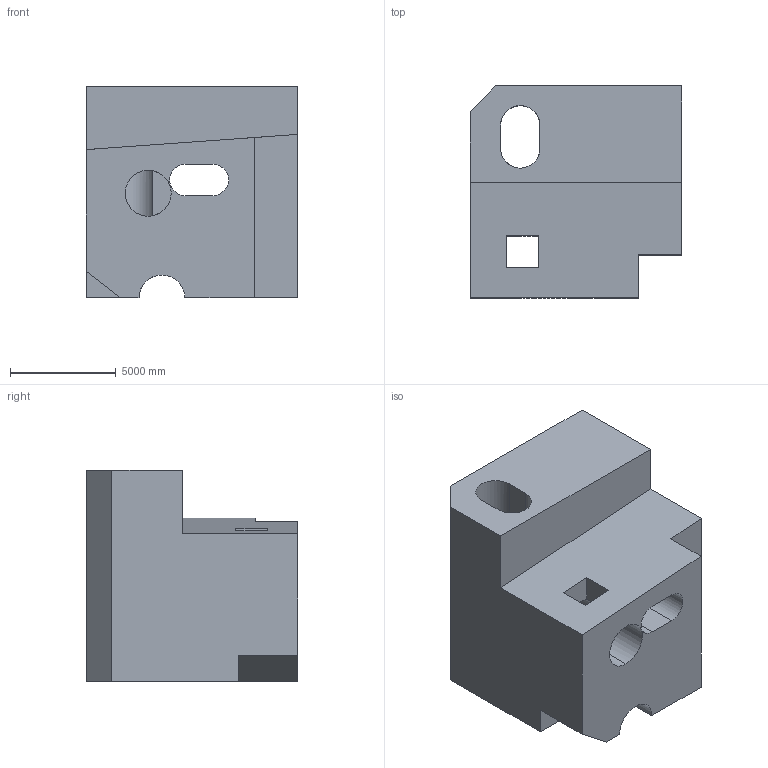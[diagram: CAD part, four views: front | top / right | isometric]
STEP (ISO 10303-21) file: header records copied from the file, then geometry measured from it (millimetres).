
FILE_DESCRIPTION (( 'STEP AP203' ), '1' );
FILE_NAME ('955.STEP', '2022-07-29T14:39:27', ( 'user' ), ( '' ), 'SwSTEP 2.0', 'SolidWorks 2021', '' );
FILE_SCHEMA (( 'CONFIG_CONTROL_DESIGN' ));
Length unit declared in the file: centimetre
Products named in the file (1): 955
Bounding box: 10000 x 10000 x 10000 mm (x, y, z)
Volume: 659648348005.6 mm3; surface area: 787088876.8 mm2
Topology: 1 solids, 1 shells, 40 faces, 126 edges, 84 vertices
Faces by surface type: plane 32, cylinder 8
Entity records: 1971 total; most frequent: CARTESIAN_POINT 748, ORIENTED_EDGE 252, DIRECTION 222, EDGE_CURVE 126, VECTOR 98, LINE 98, VERTEX_POINT 84, AXIS2_PLACEMENT_3D 62
